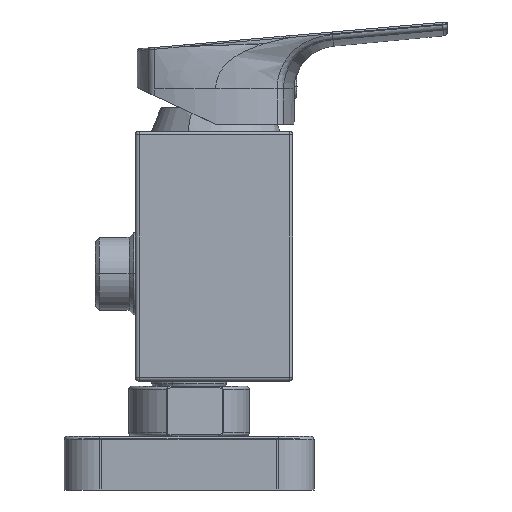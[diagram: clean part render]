
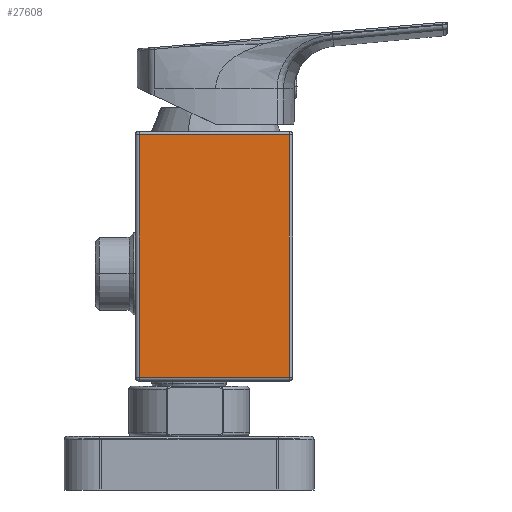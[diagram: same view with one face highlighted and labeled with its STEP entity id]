
A CAD part, left-side view. The second image highlights one B-rep face of the part: STEP entity #27608.
In plain terms, the highlighted planar face has unit normal (-1, 0, 0).
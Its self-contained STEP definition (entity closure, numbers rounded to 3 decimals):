
#9131=DIRECTION('',(0.,-1.,0.));
#9132=VECTOR('',#9131,42.);
#9133=CARTESIAN_POINT('',(-92.5,14.,69.));
#9134=LINE('',#9133,#9132);
#9135=DIRECTION('',(0.,0.,-1.));
#9136=VECTOR('',#9135,68.);
#9137=CARTESIAN_POINT('',(-92.5,-28.,69.));
#9138=LINE('',#9137,#9136);
#9139=DIRECTION('',(0.,1.,0.));
#9140=VECTOR('',#9139,42.);
#9141=CARTESIAN_POINT('',(-92.5,-28.,1.));
#9142=LINE('',#9141,#9140);
#9143=DIRECTION('',(0.,0.,-1.));
#9144=VECTOR('',#9143,68.);
#9145=CARTESIAN_POINT('',(-92.5,14.,69.));
#9146=LINE('',#9145,#9144);
#12115=CARTESIAN_POINT('',(-92.5,14.,69.));
#12117=VERTEX_POINT('',#12115);
#12122=CARTESIAN_POINT('',(-92.5,-28.,69.));
#12123=VERTEX_POINT('',#12122);
#12156=CARTESIAN_POINT('',(-92.5,-28.,1.));
#12157=CARTESIAN_POINT('',(-92.5,14.,1.));
#12158=VERTEX_POINT('',#12156);
#12159=VERTEX_POINT('',#12157);
#27597=CARTESIAN_POINT('',(-92.5,15.,0.));
#27598=DIRECTION('',(-1.,0.,0.));
#27599=DIRECTION('',(0.,-1.,0.));
#27600=AXIS2_PLACEMENT_3D('',#27597,#27598,#27599);
#27601=PLANE('',#27600);
#27602=ORIENTED_EDGE('',*,*,#19732,.T.);
#27603=ORIENTED_EDGE('',*,*,#19762,.T.);
#27604=ORIENTED_EDGE('',*,*,#19826,.T.);
#27605=ORIENTED_EDGE('',*,*,#19852,.F.);
#27606=EDGE_LOOP('',(#27602,#27603,#27604,#27605));
#27607=FACE_OUTER_BOUND('',#27606,.F.);
#27608=ADVANCED_FACE('',(#27607),#27601,.T.);
#19732=EDGE_CURVE('',#12117,#12123,#9134,.T.);
#19762=EDGE_CURVE('',#12123,#12158,#9138,.T.);
#19826=EDGE_CURVE('',#12158,#12159,#9142,.T.);
#19852=EDGE_CURVE('',#12117,#12159,#9146,.T.);
